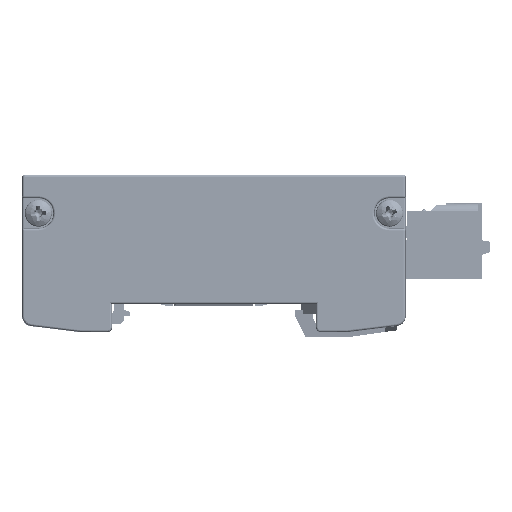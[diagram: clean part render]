
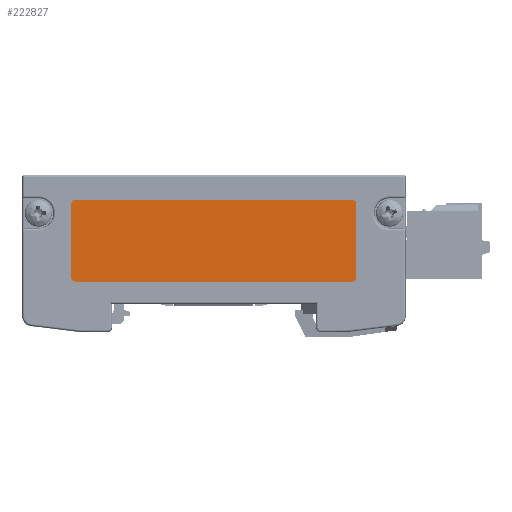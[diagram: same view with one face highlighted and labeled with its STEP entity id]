
A CAD part, left-side view. The second image highlights one B-rep face of the part: STEP entity #222827.
In plain terms, the highlighted planar face has unit normal (-1, 0, 0) as drawn and (0, 0, -1) by its records, which use the part's own axes.
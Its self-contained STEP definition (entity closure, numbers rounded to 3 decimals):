
#6372 = AXIS2_PLACEMENT_3D ( 'NONE', #753746, #1110352, #402701 ) ;
#15762 = CARTESIAN_POINT ( 'NONE',  ( -21., 28., -3.9 ) ) ;
#22283 = EDGE_CURVE ( 'NONE', #452503, #615874, #473375, .T. ) ;
#41634 = CARTESIAN_POINT ( 'NONE',  ( -5., 28., -3.9 ) ) ;
#103680 = DIRECTION ( 'NONE',  ( 1., 0., 0. ) ) ;
#137048 = CARTESIAN_POINT ( 'NONE',  ( -20.25, 28., -3.9 ) ) ;
#139502 = ORIENTED_EDGE ( 'NONE', *, *, #580160, .T. ) ;
#157846 = ORIENTED_EDGE ( 'NONE', *, *, #284631, .T. ) ;
#158774 = CARTESIAN_POINT ( 'NONE',  ( -5.75, -27.25, -3.9 ) ) ;
#179848 = LINE ( 'NONE', #15762, #688894 ) ;
#180466 = CARTESIAN_POINT ( 'NONE',  ( -21., 27.25, -3.9 ) ) ;
#183056 = DIRECTION ( 'NONE',  ( 0., 0., -1. ) ) ;
#187186 = LINE ( 'NONE', #632021, #1079539 ) ;
#190806 = CARTESIAN_POINT ( 'NONE',  ( -5.75, 27.25, -3.9 ) ) ;
#222827 = ADVANCED_FACE ( 'NONE', ( #693301 ), #1137648, .T. ) ;
#232024 = ORIENTED_EDGE ( 'NONE', *, *, #22283, .T. ) ;
#282345 = CARTESIAN_POINT ( 'NONE',  ( -20.25, -27.25, -3.9 ) ) ;
#284631 = EDGE_CURVE ( 'NONE', #996916, #393090, #924450, .T. ) ;
#285470 = CIRCLE ( 'NONE', #864935, 0.75 ) ;
#306518 = CARTESIAN_POINT ( 'NONE',  ( -5., -27.25, -3.9 ) ) ;
#336402 = CARTESIAN_POINT ( 'NONE',  ( 0., 0., -3.9 ) ) ;
#344744 = CIRCLE ( 'NONE', #904864, 0.75 ) ;
#346715 = EDGE_LOOP ( 'NONE', ( #139502, #232024, #468047, #1146668, #1115295, #1029202, #157846, #813274 ) ) ;
#388234 = VERTEX_POINT ( 'NONE', #395574 ) ;
#393090 = VERTEX_POINT ( 'NONE', #599254 ) ;
#395574 = CARTESIAN_POINT ( 'NONE',  ( -5., 27.25, -3.9 ) ) ;
#396394 = EDGE_CURVE ( 'NONE', #688837, #388234, #285470, .T. ) ;
#402701 = DIRECTION ( 'NONE',  ( -1., 0., 0. ) ) ;
#452503 = VERTEX_POINT ( 'NONE', #180466 ) ;
#468047 = ORIENTED_EDGE ( 'NONE', *, *, #691982, .T. ) ;
#471494 = DIRECTION ( 'NONE',  ( -1., 0., 0. ) ) ;
#473375 = CIRCLE ( 'NONE', #6372, 0.75 ) ;
#480631 = LINE ( 'NONE', #41634, #811619 ) ;
#532747 = EDGE_CURVE ( 'NONE', #563203, #996916, #344744, .T. ) ;
#545763 = DIRECTION ( 'NONE',  ( -1., 0., 0. ) ) ;
#556503 = DIRECTION ( 'NONE',  ( -1., 0., 0. ) ) ;
#560202 = EDGE_CURVE ( 'NONE', #393090, #1019813, #718724, .T. ) ;
#563203 = VERTEX_POINT ( 'NONE', #306518 ) ;
#580160 = EDGE_CURVE ( 'NONE', #1019813, #452503, #187186, .T. ) ;
#591355 = DIRECTION ( 'NONE',  ( 0., -1., 0. ) ) ;
#599254 = CARTESIAN_POINT ( 'NONE',  ( -20.25, -28., -3.9 ) ) ;
#605500 = DIRECTION ( 'NONE',  ( -1., 0., 0. ) ) ;
#615874 = VERTEX_POINT ( 'NONE', #137048 ) ;
#620819 = DIRECTION ( 'NONE',  ( 0., 0., -1. ) ) ;
#632021 = CARTESIAN_POINT ( 'NONE',  ( -21., -28., -3.9 ) ) ;
#642009 = CARTESIAN_POINT ( 'NONE',  ( -5.75, -28., -3.9 ) ) ;
#688837 = VERTEX_POINT ( 'NONE', #1056890 ) ;
#688894 = VECTOR ( 'NONE', #103680, 1000. ) ;
#691982 = EDGE_CURVE ( 'NONE', #615874, #688837, #179848, .T. ) ;
#693301 = FACE_OUTER_BOUND ( 'NONE', #346715, .T. ) ;
#700313 = AXIS2_PLACEMENT_3D ( 'NONE', #282345, #183056, #545763 ) ;
#718724 = CIRCLE ( 'NONE', #700313, 0.75 ) ;
#753746 = CARTESIAN_POINT ( 'NONE',  ( -20.25, 27.25, -3.9 ) ) ;
#782392 = EDGE_CURVE ( 'NONE', #388234, #563203, #480631, .T. ) ;
#811619 = VECTOR ( 'NONE', #591355, 1000. ) ;
#813274 = ORIENTED_EDGE ( 'NONE', *, *, #560202, .T. ) ;
#816631 = DIRECTION ( 'NONE',  ( 0., 0., -1. ) ) ;
#830333 = DIRECTION ( 'NONE',  ( 0., 1., 0. ) ) ;
#864935 = AXIS2_PLACEMENT_3D ( 'NONE', #190806, #816631, #471494 ) ;
#887362 = AXIS2_PLACEMENT_3D ( 'NONE', #336402, #1049583, #605500 ) ;
#904864 = AXIS2_PLACEMENT_3D ( 'NONE', #158774, #620819, #1152916 ) ;
#924450 = LINE ( 'NONE', #1000507, #1067167 ) ;
#996916 = VERTEX_POINT ( 'NONE', #642009 ) ;
#1000507 = CARTESIAN_POINT ( 'NONE',  ( -5., -28., -3.9 ) ) ;
#1019813 = VERTEX_POINT ( 'NONE', #1057293 ) ;
#1029202 = ORIENTED_EDGE ( 'NONE', *, *, #532747, .T. ) ;
#1049583 = DIRECTION ( 'NONE',  ( 0., 0., -1. ) ) ;
#1056890 = CARTESIAN_POINT ( 'NONE',  ( -5.75, 28., -3.9 ) ) ;
#1057293 = CARTESIAN_POINT ( 'NONE',  ( -21., -27.25, -3.9 ) ) ;
#1067167 = VECTOR ( 'NONE', #556503, 1000. ) ;
#1079539 = VECTOR ( 'NONE', #830333, 1000. ) ;
#1110352 = DIRECTION ( 'NONE',  ( 0., 0., -1. ) ) ;
#1115295 = ORIENTED_EDGE ( 'NONE', *, *, #782392, .T. ) ;
#1137648 = PLANE ( 'NONE',  #887362 ) ;
#1146668 = ORIENTED_EDGE ( 'NONE', *, *, #396394, .T. ) ;
#1152916 = DIRECTION ( 'NONE',  ( -1., 0., 0. ) ) ;
